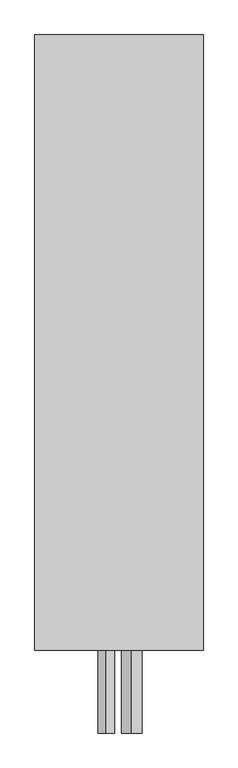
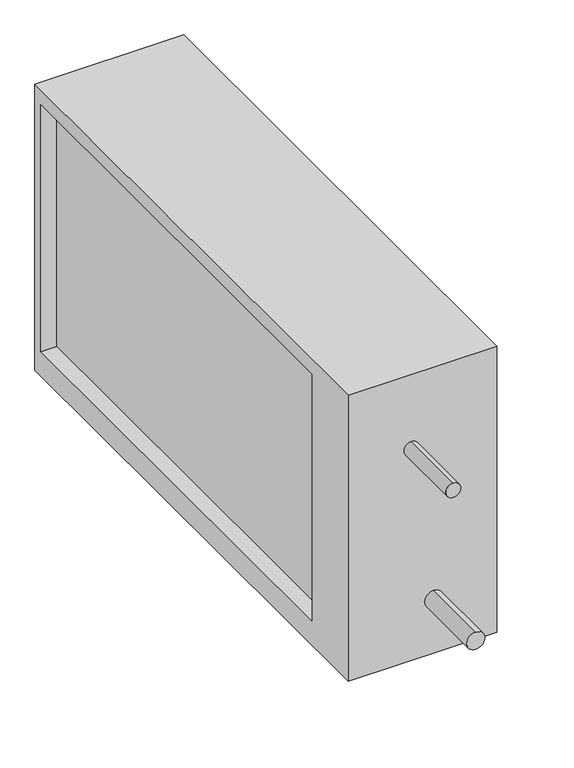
"""IFC4 building model written with IfcOpenShell, lengths in millimetres: proxy geometry, СВ_ВоздухоохладительФреоновый_КанальныйПрямоугольный_200-1000_SPC-F : SPC-F-900x500-R."""

import ifcopenshell
import ifcopenshell.guid

model = None  # the IFC model being written
_history = None  # IfcOwnerHistory: only IFC2X3 demands one
_inside = {}  # id of a spatial element -> (the spatial element, [elements in it])
_under = {}  # id of a project, library or spatial element -> (it, [spatial elements below it])
_declared = {}  # id of a project -> (the project, [libraries it declares])
_typed = {}  # id of a type object -> (the type object, [elements of that type])
_made_of = {}  # id of a material, layer set ... -> (it, [elements and type objects made of it])


def new_model(schema):
    """Start an empty IFC model of exactly this schema.

    Asked for "IFC4X3", IfcOpenShell would pick the latest addendum, in which some entities
    have other attributes; the version numbers below select the first issue.
    IFC2X3 requires an IfcOwnerHistory on every rooted entity: one is made here for all.
    """
    global model, _history
    if schema == "IFC4X3":
        model = ifcopenshell.file(schema_version=(4, 3, 0, 0))
    else:
        model = ifcopenshell.file(schema=schema)
    _inside.clear()
    _under.clear()
    _declared.clear()
    _typed.clear()
    _made_of.clear()
    _history = None
    if model.schema == "IFC2X3":
        org = make("IfcOrganization", Name="unknown")
        user = make(
            "IfcPersonAndOrganization",
            ThePerson=make("IfcPerson", FamilyName="unknown"),
            TheOrganization=org,
        )
        app = make(
            "IfcApplication",
            ApplicationDeveloper=org,
            Version="unknown",
            ApplicationFullName="unknown",
            ApplicationIdentifier="unknown",
        )
        _history = make(
            "IfcOwnerHistory",
            OwningUser=user,
            OwningApplication=app,
            ChangeAction="ADDED",
            CreationDate=0,
        )
    return model


def make(cls, **values):
    """One entity of the class cls with the attributes given. An attribute that is None is left unset."""
    return model.create_entity(
        cls, **{name: value for name, value in values.items() if value is not None}
    )


def rooted(cls, **values):
    """An entity with a GlobalId (a new one), such as an element, a storey or a relation."""
    return make(cls, GlobalId=ifcopenshell.guid.new(), OwnerHistory=_history, **values)


def si_unit(unit_type, name, prefix=None):
    """IfcSIUnit, for example si_unit("LENGTHUNIT", "METRE", prefix="MILLI")."""
    return make("IfcSIUnit", UnitType=unit_type, Prefix=prefix, Name=name)


def assignment(units):
    """IfcUnitAssignment: the units of a project."""
    return None if units is None else make("IfcUnitAssignment", Units=units)


def point(xyz):
    """IfcCartesianPoint."""
    return None if xyz is None else make("IfcCartesianPoint", Coordinates=xyz)


def direction(xyz):
    """IfcDirection."""
    return None if xyz is None else make("IfcDirection", DirectionRatios=xyz)


def frame(location, z_axis=None, x_axis=None):
    """IfcAxis2Placement3D, a coordinate frame: its origin and axes. An axis left out is left unset."""
    return make(
        "IfcAxis2Placement3D",
        Location=point(location),
        Axis=direction(z_axis),
        RefDirection=direction(x_axis),
    )


def frame_2d(location, x_axis=None):
    """IfcAxis2Placement2D, a coordinate frame in the plane: its origin and x axis."""
    return make(
        "IfcAxis2Placement2D", Location=point(location), RefDirection=direction(x_axis)
    )


def origin():
    """The frame at (0, 0, 0) with its axes left unset."""
    return frame((0.0, 0.0, 0.0))


def place(relative_to, where):
    """IfcLocalPlacement: puts the frame where relative to a parent placement (None: the world)."""
    return make(
        "IfcLocalPlacement", PlacementRelTo=relative_to, RelativePlacement=where
    )


def context(
    kind, dimensions, precision=None, world=None, true_north=None, identifier=None
):
    """IfcGeometricRepresentationContext, for example the 3D "Model" context."""
    return make(
        "IfcGeometricRepresentationContext",
        ContextIdentifier=identifier,
        ContextType=kind,
        CoordinateSpaceDimension=dimensions,
        Precision=precision,
        WorldCoordinateSystem=world,
        TrueNorth=true_north,
    )


def project(units=None, contexts=None):
    """IfcProject with its units and contexts."""
    return rooted(
        "IfcProject",
        Name="project",
        RepresentationContexts=contexts,
        UnitsInContext=assignment(units),
    )


def spatial(cls, under=None, at=None, **own):
    """A site, building, storey or space (cls), placed at a placement, below another one or the project."""
    s = rooted(cls, ObjectPlacement=at, **own)
    if under is not None:
        _under.setdefault(under.id(), (under, []))[1].append(s)
    return s


def polyline(points):
    """IfcPolyline through the points."""
    return make("IfcPolyline", Points=[point(p) for p in points])


def circle_curve(where, radius):
    """IfcCircle in the frame where."""
    return make("IfcCircle", Position=where, Radius=radius)


def trimmed(basis, trim1, trim2, sense, master):
    """IfcTrimmedCurve: the piece of a basis curve between two trims."""
    return make(
        "IfcTrimmedCurve",
        BasisCurve=basis,
        Trim1=trim1,
        Trim2=trim2,
        SenseAgreement=sense,
        MasterRepresentation=master,
    )


def segment(curve, same_sense, transition):
    """IfcCompositeCurveSegment."""
    return make(
        "IfcCompositeCurveSegment",
        Transition=transition,
        SameSense=same_sense,
        ParentCurve=curve,
    )


def composite_curve(segments, self_intersect=None):
    """IfcCompositeCurve: segments joined end to end."""
    return make("IfcCompositeCurve", Segments=segments, SelfIntersect=self_intersect)


def outline(outer, holes=None, kind="AREA"):
    """IfcArbitraryClosedProfileDef: a profile drawn as a closed curve; with holes, ...WithVoids."""
    if holes is None:
        return make("IfcArbitraryClosedProfileDef", ProfileType=kind, OuterCurve=outer)
    return make(
        "IfcArbitraryProfileDefWithVoids",
        ProfileType=kind,
        OuterCurve=outer,
        InnerCurves=holes,
    )


def extrude(swept, where, along, depth):
    """IfcExtrudedAreaSolid: the profile swept, set in the frame where, extruded along a direction by depth."""
    return make(
        "IfcExtrudedAreaSolid",
        SweptArea=swept,
        Position=where,
        ExtrudedDirection=direction(along),
        Depth=depth,
    )


def shape(context_of_items, identifier, shape_type, items):
    """IfcShapeRepresentation: the items that make up one representation, for example the "Body"."""
    return make(
        "IfcShapeRepresentation",
        ContextOfItems=context_of_items,
        RepresentationIdentifier=identifier,
        RepresentationType=shape_type,
        Items=items,
    )


def source(mapping_origin, context_of_items, identifier, shape_type, items):
    """IfcRepresentationMap: a shape defined once, which mapped items show again and again."""
    return make(
        "IfcRepresentationMap",
        MappingOrigin=mapping_origin,
        MappedRepresentation=shape(context_of_items, identifier, shape_type, items),
    )


def transform(
    local_origin,
    x_axis=None,
    y_axis=None,
    z_axis=None,
    scale=None,
    scale2=None,
    scale3=None,
    uniform=True,
):
    """IfcCartesianTransformationOperator3D, or its non-uniform kind. x_axis, y_axis, z_axis: its Axis1, 2, 3."""
    if uniform:
        return make(
            "IfcCartesianTransformationOperator3D",
            Axis1=direction(x_axis),
            Axis2=direction(y_axis),
            LocalOrigin=point(local_origin),
            Scale=scale,
            Axis3=direction(z_axis),
        )
    return make(
        "IfcCartesianTransformationOperator3DnonUniform",
        Axis1=direction(x_axis),
        Axis2=direction(y_axis),
        LocalOrigin=point(local_origin),
        Scale=scale,
        Axis3=direction(z_axis),
        Scale2=scale2,
        Scale3=scale3,
    )


def mapped(mapping_source, mapping_target):
    """IfcMappedItem: shows the shape of a source again, moved by a transform."""
    return make(
        "IfcMappedItem", MappingSource=mapping_source, MappingTarget=mapping_target
    )


def made_of(thing, what):
    """Note that an element or type object is made of a material, layer set ...; save() writes the relation."""
    if what is not None:
        _made_of.setdefault(what.id(), (what, []))[1].append(thing)
    return thing


def element(
    cls,
    number,
    at=None,
    inside=None,
    cuts=None,
    type_object=None,
    material=None,
    context=None,
    identifier="Body",
    shape_type=None,
    held_by="IfcProductDefinitionShape",
    body=None,
    shapes=None,
    **own,
):
    """One element of the class cls, such as IfcWall. Its Tag is "e" and its number.

    at: its placement. inside: the storey or other place that contains it. cuts: it is an
    opening in that element (IfcRelVoidsElement). A single representation is given by context,
    identifier, shape_type and body (its items); several are given by shapes. held_by: the class
    of the entity that holds the representations. save() writes the other relations.
    """
    e = rooted(cls, Tag="e%d" % number, ObjectPlacement=at, **own)
    if body is not None:
        shapes = [shape(context, identifier, shape_type, body)]
    if shapes is not None:
        e.Representation = make(held_by, Representations=shapes)
    if inside is not None:
        _inside.setdefault(inside.id(), (inside, []))[1].append(e)
    if cuts is not None:
        rooted(
            "IfcRelVoidsElement", RelatingBuildingElement=cuts, RelatedOpeningElement=e
        )
    if type_object is not None:
        _typed.setdefault(type_object.id(), (type_object, []))[1].append(e)
    return made_of(e, material)


def aggregate(whole, parts):
    """IfcRelAggregates: a whole, such as a stair, and the parts it consists of."""
    return rooted("IfcRelAggregates", RelatingObject=whole, RelatedObjects=parts)


def save(model, path):
    """Write the relations noted so far, then the file.

    IfcRelAggregates (storeys below a building ...), IfcRelContainedInSpatialStructure (elements
    in a storey), IfcRelDefinesByType, IfcRelAssociatesMaterial and IfcRelDeclares: one each for
    every whole, place, type object, material and project.
    """
    for whole, parts in _under.values():
        aggregate(whole, parts)
    for where, things in _inside.values():
        rooted(
            "IfcRelContainedInSpatialStructure",
            RelatedElements=things,
            RelatingStructure=where,
        )
    for kind, things in _typed.values():
        rooted("IfcRelDefinesByType", RelatedObjects=things, RelatingType=kind)
    for what, things in _made_of.values():
        rooted("IfcRelAssociatesMaterial", RelatedObjects=things, RelatingMaterial=what)
    for by, libraries in _declared.values():
        rooted("IfcRelDeclares", RelatingContext=by, RelatedDefinitions=libraries)
    model.write(path)


def mechanical_equipment_3d9de555(model_context):
    return source(origin(), model_context, "Body", "SweptSolid", [
        extrude(outline(polyline([(-570.0, -300.0), (-570.0, 280.0), (470.0, 280.0), (470.0, -300.0), (-570.0, -300.0)]), holes=[polyline([(-450.0, 250.0), (-450.0, -250.0), (450.0, -250.0), (450.0, 250.0), (-450.0, 250.0)])]), frame((-142.5, 0.0, 0.0), z_axis=(1.0, 0.0, 0.0), x_axis=(0.0, 1.0, 0.0)), (0.0, 0.0, 1.0), 285.0),
        extrude(outline(composite_curve([segment(trimmed(circle_curve(frame_2d((-190.0, 21.5)), 17.45), [point((-172.55, 21.5))], [point((-207.45, 21.5))], False, "CARTESIAN"), True, "CONTINUOUS"), segment(trimmed(circle_curve(frame_2d((-190.0, 21.5)), 17.45), [point((-207.45, 21.5))], [point((-172.55, 21.5))], False, "CARTESIAN"), True, "CONTINUOUS")], self_intersect=False)), frame((0.0, -710.0, 0.0), z_axis=(0.0, 1.0, 0.0), x_axis=(0.0, 0.0, 1.0)), (0.0, 0.0, 1.0), 140.0),
        extrude(outline(composite_curve([segment(trimmed(circle_curve(frame_2d((130.0, -21.5)), 14.3), [point((144.3, -21.5))], [point((115.7, -21.5))], False, "CARTESIAN"), True, "CONTINUOUS"), segment(trimmed(circle_curve(frame_2d((130.0, -21.5)), 14.3), [point((115.7, -21.5))], [point((144.3, -21.5))], False, "CARTESIAN"), True, "CONTINUOUS")], self_intersect=False)), frame((0.0, -710.0, 0.0), z_axis=(0.0, 1.0, 0.0), x_axis=(0.0, 0.0, 1.0)), (0.0, 0.0, 1.0), 140.0),
        extrude(outline(composite_curve([segment(trimmed(circle_curve(frame_2d((0.0, -530.0)), 11.0), [point((-11.0, -530.0))], [point((11.0, -530.0))], False, "CARTESIAN"), True, "CONTINUOUS"), segment(trimmed(circle_curve(frame_2d((0.0, -530.0)), 11.0), [point((11.0, -530.0))], [point((-11.0, -530.0))], False, "CARTESIAN"), True, "CONTINUOUS")], self_intersect=False)), frame((0.0, 0.0, -320.0), z_axis=(0.0, 0.0, 1.0), x_axis=(1.0, 0.0, 0.0)), (0.0, 0.0, 1.0), 20.0),
        extrude(outline(polyline([(112.5, 450.0), (112.5, -450.0), (-112.5, -450.0), (-112.5, 450.0), (112.5, 450.0)])), frame((0.0, 0.0, -250.0), z_axis=(0.0, 0.0, 1.0), x_axis=(1.0, 0.0, 0.0)), (0.0, 0.0, 1.0), 500.0),
    ])


if __name__ == "__main__":
    model = new_model("IFC4")
    model_context = context("Model", 3, world=origin())
    ifc_project = project(units=[si_unit("LENGTHUNIT", "METRE", prefix="MILLI")], contexts=[model_context])
    site = spatial("IfcSite", under=ifc_project)
    building = spatial("IfcBuilding", under=site)
    placement = place(None, origin())
    mechanical_equipment_shape = mechanical_equipment_3d9de555(model_context)
    element("IfcBuildingElementProxy", 1, Name="СВ_ВоздухоохладительФреоновый_КанальныйПрямоугольный_200-1000_SPC-F : SPC-F-900x500-R", ObjectType="СВ_ВоздухоохладительФреоновый_КанальныйПрямоугольный_200-1000_SPC-F : SPC-F-900x500-R", at=placement, inside=building, context=model_context, shape_type="MappedRepresentation", body=[
        mapped(mechanical_equipment_shape, transform((0.0, 0.0, 0.0), x_axis=(1.0, 0.0, 0.0), y_axis=(0.0, 1.0, 0.0), z_axis=(0.0, 0.0, 1.0))),
    ])
    save(model, "model.ifc")
